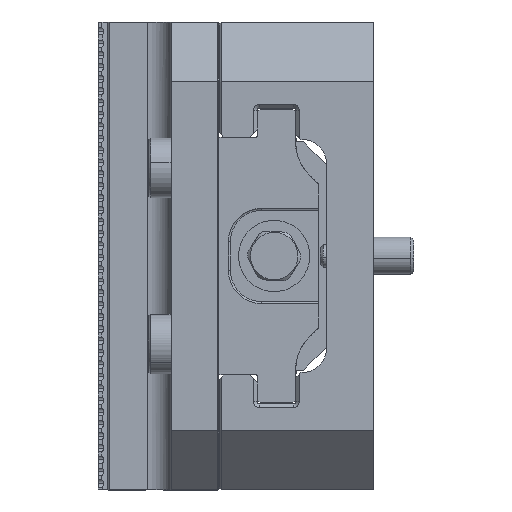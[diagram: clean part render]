
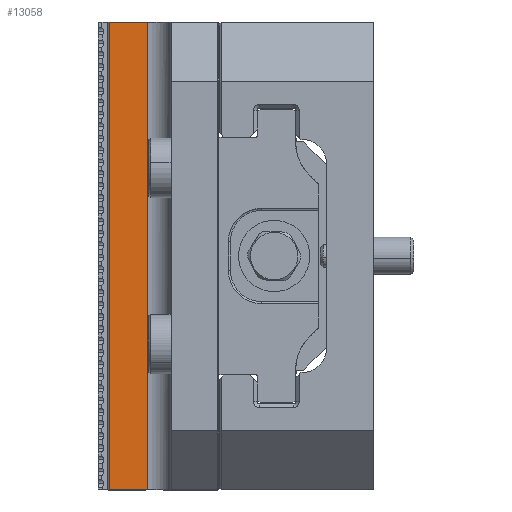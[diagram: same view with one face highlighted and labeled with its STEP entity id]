
A CAD part, left-side view. The second image highlights one B-rep face of the part: STEP entity #13058.
In plain terms, the highlighted planar face has unit normal (-1, 0, 0) as drawn and (1, 0, 0) by its records, which use the part's own axes.
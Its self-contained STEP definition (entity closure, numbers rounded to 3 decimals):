
#1455 = EDGE_CURVE ( 'NONE', #16393, #44222, #53354, .T. ) ;
#2809 = LINE ( 'NONE', #34645, #25915 ) ;
#4031 = PLANE ( 'NONE',  #53948 ) ;
#9347 = VERTEX_POINT ( 'NONE', #46769 ) ;
#12158 = DIRECTION ( 'NONE',  ( 0., 1., 0. ) ) ;
#13058 = ADVANCED_FACE ( 'NONE', ( #27340 ), #4031, .F. ) ;
#13305 = DIRECTION ( 'NONE',  ( 0., -1., 0. ) ) ;
#16393 = VERTEX_POINT ( 'NONE', #30539 ) ;
#16779 = CARTESIAN_POINT ( 'NONE',  ( -3.747, 13.629, 62.5 ) ) ;
#20833 = EDGE_LOOP ( 'NONE', ( #41257, #22372, #46986, #27647 ) ) ;
#21325 = DIRECTION ( 'NONE',  ( 0., 0., 1. ) ) ;
#22372 = ORIENTED_EDGE ( 'NONE', *, *, #55610, .T. ) ;
#25915 = VECTOR ( 'NONE', #39314, 1000. ) ;
#27050 = CARTESIAN_POINT ( 'NONE',  ( -3.747, 13.629, -62.5 ) ) ;
#27340 = FACE_OUTER_BOUND ( 'NONE', #20833, .T. ) ;
#27647 = ORIENTED_EDGE ( 'NONE', *, *, #43831, .T. ) ;
#28001 = LINE ( 'NONE', #27050, #37465 ) ;
#30539 = CARTESIAN_POINT ( 'NONE',  ( -3.746, 2.921, 62.5 ) ) ;
#34645 = CARTESIAN_POINT ( 'NONE',  ( -3.746, 2.921, 62.5 ) ) ;
#35056 = CARTESIAN_POINT ( 'NONE',  ( -3.747, 13.121, -62.5 ) ) ;
#36405 = CARTESIAN_POINT ( 'NONE',  ( -3.747, 13.629, 62.5 ) ) ;
#37465 = VECTOR ( 'NONE', #54788, 1000. ) ;
#39314 = DIRECTION ( 'NONE',  ( 0., 0., -1. ) ) ;
#39606 = LINE ( 'NONE', #53778, #51918 ) ;
#41071 = DIRECTION ( 'NONE',  ( -1., 0., 0. ) ) ;
#41096 = VECTOR ( 'NONE', #12158, 1000. ) ;
#41257 = ORIENTED_EDGE ( 'NONE', *, *, #52778, .T. ) ;
#43831 = EDGE_CURVE ( 'NONE', #16393, #9347, #2809, .T. ) ;
#44222 = VERTEX_POINT ( 'NONE', #56664 ) ;
#46769 = CARTESIAN_POINT ( 'NONE',  ( -3.746, 2.921, -62.5 ) ) ;
#46986 = ORIENTED_EDGE ( 'NONE', *, *, #1455, .F. ) ;
#51918 = VECTOR ( 'NONE', #21325, 1000. ) ;
#52778 = EDGE_CURVE ( 'NONE', #9347, #55474, #28001, .T. ) ;
#53354 = LINE ( 'NONE', #16779, #41096 ) ;
#53778 = CARTESIAN_POINT ( 'NONE',  ( -3.747, 13.121, 62.5 ) ) ;
#53948 = AXIS2_PLACEMENT_3D ( 'NONE', #36405, #41071, #13305 ) ;
#54788 = DIRECTION ( 'NONE',  ( 0., 1., 0. ) ) ;
#55474 = VERTEX_POINT ( 'NONE', #35056 ) ;
#55610 = EDGE_CURVE ( 'NONE', #55474, #44222, #39606, .T. ) ;
#56664 = CARTESIAN_POINT ( 'NONE',  ( -3.747, 13.121, 62.5 ) ) ;
